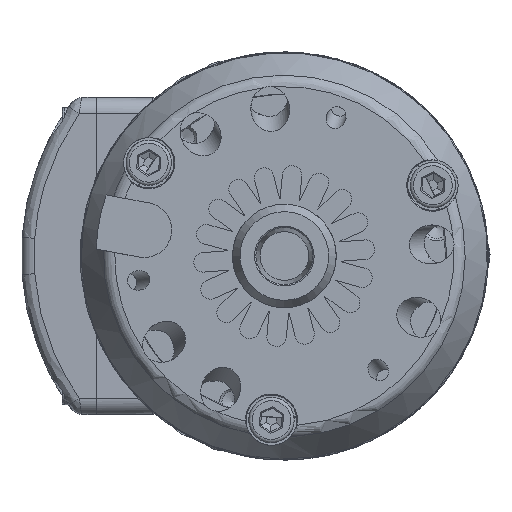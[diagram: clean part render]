
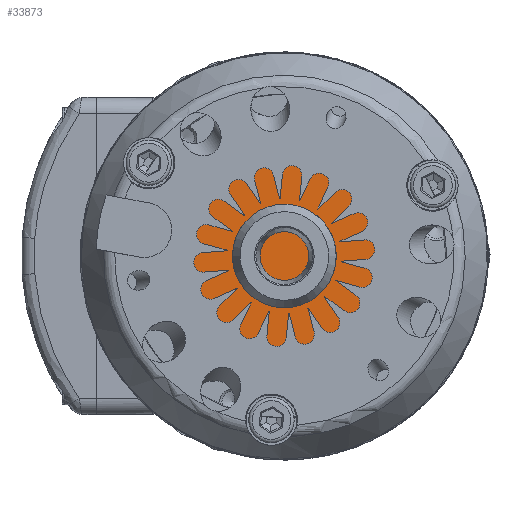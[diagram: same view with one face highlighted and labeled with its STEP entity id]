
A CAD part, front view. The second image highlights one B-rep face of the part: STEP entity #33873.
In plain terms, the highlighted planar face has unit normal (0, -1, 0).
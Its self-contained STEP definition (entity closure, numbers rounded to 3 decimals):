
#2172 = DIRECTION ( 'NONE',  ( 0., -1., 0. ) ) ;
#3495 = AXIS2_PLACEMENT_3D ( 'NONE', #45262, #2172, #6181 ) ;
#6181 = DIRECTION ( 'NONE',  ( -1., 0., 0. ) ) ;
#7981 = CARTESIAN_POINT ( 'NONE',  ( -18.498, 54.7, 0. ) ) ;
#8827 = VERTEX_POINT ( 'NONE', #7981 ) ;
#9986 = AXIS2_PLACEMENT_3D ( 'NONE', #50139, #42369, #37221 ) ;
#11468 = ORIENTED_EDGE ( 'NONE', *, *, #35673, .T. ) ;
#12171 = EDGE_LOOP ( 'NONE', ( #11468 ) ) ;
#23980 = PLANE ( 'NONE',  #9986 ) ;
#33873 = ADVANCED_FACE ( 'NONE', ( #55315 ), #23980, .F. ) ;
#35673 = EDGE_CURVE ( 'NONE', #8827, #8827, #42950, .T. ) ;
#37221 = DIRECTION ( 'NONE',  ( 1., 0., 0. ) ) ;
#42369 = DIRECTION ( 'NONE',  ( 0., 1., 0. ) ) ;
#42950 = CIRCLE ( 'NONE', #3495, 18.498 ) ;
#45262 = CARTESIAN_POINT ( 'NONE',  ( 0., 54.7, 0. ) ) ;
#50139 = CARTESIAN_POINT ( 'NONE',  ( 0., 54.7, 18.498 ) ) ;
#55315 = FACE_OUTER_BOUND ( 'NONE', #12171, .T. ) ;
